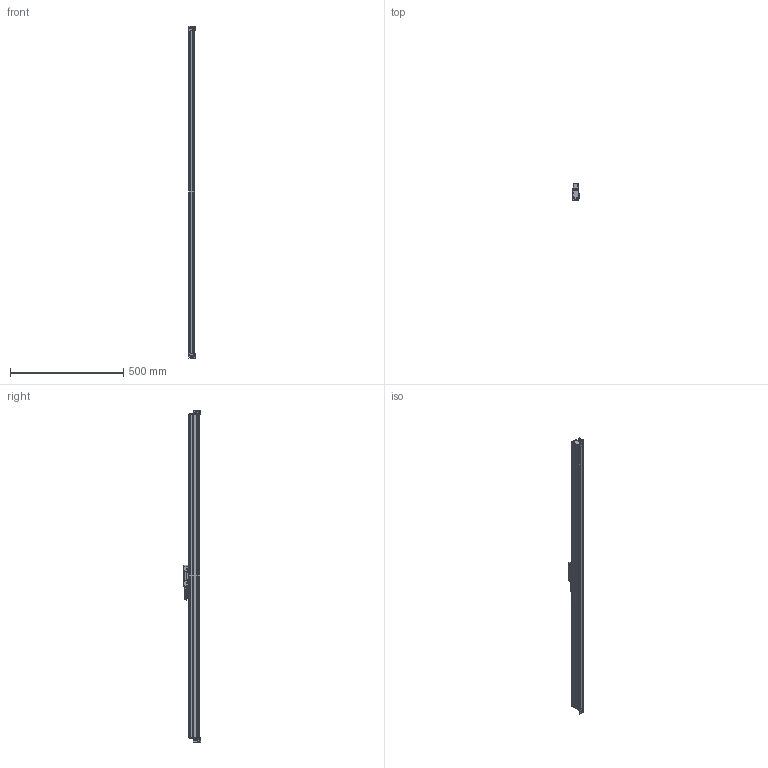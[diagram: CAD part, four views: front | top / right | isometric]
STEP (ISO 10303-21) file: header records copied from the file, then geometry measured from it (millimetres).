
FILE_DESCRIPTION (( 'STEP AP214' ), '1' );
FILE_NAME ('MLC310x1300.STEP', '2021-05-08T11:53:23', ( '' ), ( '' ), 'SwSTEP 2.0', 'SolidWorks 2014', '' );
FILE_SCHEMA (( 'AUTOMOTIVE_DESIGN' ));
Length unit declared in the file: millimetre
Products named in the file (1): MLC310x1300
Bounding box: 27 x 75.15 x 1464 mm (x, y, z)
Surface area: 251908.3 mm2 (no closed solid volume)
Topology: 0 solids, 23 shells, 367 faces, 1289 edges, 931 vertices
Faces by surface type: plane 151, cylinder 127, cone 67, bspline 18, torus 4
Entity records: 27270 total; most frequent: CARTESIAN_POINT 12479, DIRECTION 2209, ORIENTED_EDGE 1948, EDGE_CURVE 1289, VERTEX_POINT 931, AXIS2_PLACEMENT_3D 765, LINE 679, VECTOR 679
